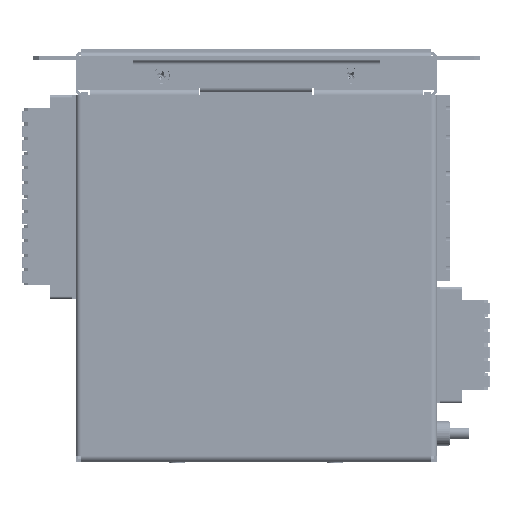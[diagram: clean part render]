
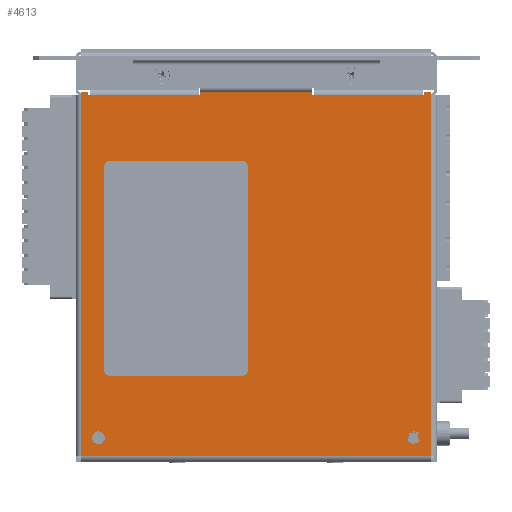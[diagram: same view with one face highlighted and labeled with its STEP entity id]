
A CAD part, left-side view. The second image highlights one B-rep face of the part: STEP entity #4613.
In plain terms, the highlighted planar face has unit normal (-1, 0, 0) as drawn and (0, 0, 1) by its records, which use the part's own axes.
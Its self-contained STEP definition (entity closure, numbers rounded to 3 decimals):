
#4613=ADVANCED_FACE('',(#188357,#188359,#188361),#188363,.T.);
#188357=FACE_BOUND('',#188358,.T.);
#188358=EDGE_LOOP('',(#334803,#334804,#334805,#334806,#334807,#334808,#334809,#334810,
#334811,#334812,#334813,#334814,#334815,#334816,#334817,#334818,#334819,#334820));
#188359=FACE_BOUND('',#188360,.T.);
#188360=EDGE_LOOP('',(#334821));
#188361=FACE_BOUND('',#188362,.T.);
#188362=EDGE_LOOP('',(#334822));
#188363=PLANE('',#188364);
#188364=AXIS2_PLACEMENT_3D('',#188365,#188366,#188367);
#188365=CARTESIAN_POINT('',(0.,0.,1.));
#188366=DIRECTION('',(0.,0.,1.));
#188367=DIRECTION('',(1.,0.,0.));
#334803=ORIENTED_EDGE('',*,*,#466838,.F.);
#334804=ORIENTED_EDGE('',*,*,#466839,.T.);
#334805=ORIENTED_EDGE('',*,*,#466840,.T.);
#334806=ORIENTED_EDGE('',*,*,#466841,.T.);
#334807=ORIENTED_EDGE('',*,*,#466842,.T.);
#334808=ORIENTED_EDGE('',*,*,#466843,.T.);
#334809=ORIENTED_EDGE('',*,*,#466844,.F.);
#334810=ORIENTED_EDGE('',*,*,#466845,.T.);
#334811=ORIENTED_EDGE('',*,*,#466846,.T.);
#334812=ORIENTED_EDGE('',*,*,#466847,.T.);
#334813=ORIENTED_EDGE('',*,*,#466848,.T.);
#334814=ORIENTED_EDGE('',*,*,#466636,.T.);
#334815=ORIENTED_EDGE('',*,*,#466849,.T.);
#334816=ORIENTED_EDGE('',*,*,#466850,.T.);
#334817=ORIENTED_EDGE('',*,*,#466851,.T.);
#334818=ORIENTED_EDGE('',*,*,#466852,.T.);
#334819=ORIENTED_EDGE('',*,*,#466853,.T.);
#334820=ORIENTED_EDGE('',*,*,#466854,.T.);
#334821=ORIENTED_EDGE('',*,*,#466855,.T.);
#334822=ORIENTED_EDGE('',*,*,#466856,.T.);
#466636=EDGE_CURVE('',#528218,#528220,#528222,.T.);
#466838=EDGE_CURVE('',#528524,#528525,#528526,.T.);
#466839=EDGE_CURVE('',#528524,#528527,#528528,.F.);
#466840=EDGE_CURVE('',#528527,#528529,#528530,.F.);
#466841=EDGE_CURVE('',#528529,#528531,#528532,.F.);
#466842=EDGE_CURVE('',#528531,#528533,#528534,.F.);
#466843=EDGE_CURVE('',#528533,#528535,#528536,.F.);
#466844=EDGE_CURVE('',#528537,#528535,#528538,.T.);
#466845=EDGE_CURVE('',#528537,#528539,#528540,.F.);
#466846=EDGE_CURVE('',#528539,#528541,#528542,.F.);
#466847=EDGE_CURVE('',#528541,#528543,#528544,.T.);
#466848=EDGE_CURVE('',#528543,#528218,#528545,.F.);
#466849=EDGE_CURVE('',#528220,#528546,#528547,.T.);
#466850=EDGE_CURVE('',#528546,#528548,#528549,.T.);
#466851=EDGE_CURVE('',#528548,#528550,#528551,.F.);
#466852=EDGE_CURVE('',#528550,#528552,#528553,.T.);
#466853=EDGE_CURVE('',#528552,#528554,#528555,.F.);
#466854=EDGE_CURVE('',#528554,#528525,#528556,.F.);
#466855=EDGE_CURVE('',#528557,#528557,#528558,.T.);
#466856=EDGE_CURVE('',#528559,#528559,#528560,.T.);
#528218=VERTEX_POINT('',#631509);
#528220=VERTEX_POINT('',#631514);
#528222=LINE('',#631519,#631520);
#528524=VERTEX_POINT('',#632229);
#528525=VERTEX_POINT('',#632230);
#528526=LINE('',#632231,#632232);
#528527=VERTEX_POINT('',#632234);
#528528=LINE('',#632235,#632236);
#528529=VERTEX_POINT('',#632238);
#528530=LINE('',#632239,#632240);
#528531=VERTEX_POINT('',#632242);
#528532=LINE('',#632243,#632244);
#528533=VERTEX_POINT('',#632246);
#528534=LINE('',#632247,#632248);
#528535=VERTEX_POINT('',#632250);
#528536=LINE('',#632251,#632252);
#528537=VERTEX_POINT('',#632254);
#528538=LINE('',#632255,#632256);
#528539=VERTEX_POINT('',#632258);
#528540=LINE('',#632259,#632260);
#528541=VERTEX_POINT('',#632262);
#528542=LINE('',#632263,#632264);
#528543=VERTEX_POINT('',#632266);
#528544=LINE('',#632267,#632268);
#528545=LINE('',#632270,#632271);
#528546=VERTEX_POINT('',#632273);
#528547=LINE('',#632274,#632275);
#528548=VERTEX_POINT('',#632277);
#528549=LINE('',#632278,#632279);
#528550=VERTEX_POINT('',#632281);
#528551=LINE('',#632282,#632283);
#528552=VERTEX_POINT('',#632285);
#528553=LINE('',#632286,#632287);
#528554=VERTEX_POINT('',#632289);
#528555=LINE('',#632290,#632291);
#528556=LINE('',#632293,#632294);
#528557=VERTEX_POINT('',#632296);
#528558=CIRCLE('',#632297,1.5);
#528559=VERTEX_POINT('',#632301);
#528560=CIRCLE('',#632302,1.5);
#631509=CARTESIAN_POINT('',(-62.5,-61.,1.));
#631514=CARTESIAN_POINT('',(63.5,-61.,1.));
#631519=CARTESIAN_POINT('',(-62.5,-61.,1.));
#631520=VECTOR('',#631521,1.);
#631521=DIRECTION('',(1.,0.,0.));
#632229=CARTESIAN_POINT('',(-62.5,20.,1.));
#632230=CARTESIAN_POINT('',(-62.5,58.,1.));
#632231=CARTESIAN_POINT('',(-62.5,20.,1.));
#632232=VECTOR('',#632233,1.);
#632233=DIRECTION('',(0.,1.,0.));
#632234=CARTESIAN_POINT('',(-62.5,19.5,1.));
#632235=CARTESIAN_POINT('',(-62.5,19.5,1.));
#632236=VECTOR('',#632237,1.);
#632237=DIRECTION('',(0.,1.,0.));
#632238=CARTESIAN_POINT('',(-63.5,19.5,1.));
#632239=CARTESIAN_POINT('',(-63.5,19.5,1.));
#632240=VECTOR('',#632241,1.);
#632241=DIRECTION('',(1.,0.,0.));
#632242=CARTESIAN_POINT('',(-63.5,-19.5,1.));
#632243=CARTESIAN_POINT('',(-63.5,-19.5,1.));
#632244=VECTOR('',#632245,1.);
#632245=DIRECTION('',(0.,1.,0.));
#632246=CARTESIAN_POINT('',(-62.5,-19.5,1.));
#632247=CARTESIAN_POINT('',(-62.5,-19.5,1.));
#632248=VECTOR('',#632249,1.);
#632249=DIRECTION('',(-1.,0.,0.));
#632250=CARTESIAN_POINT('',(-62.5,-20.,1.));
#632251=CARTESIAN_POINT('',(-62.5,-20.,1.));
#632252=VECTOR('',#632253,1.);
#632253=DIRECTION('',(0.,1.,0.));
#632254=CARTESIAN_POINT('',(-62.5,-58.,1.));
#632255=CARTESIAN_POINT('',(-62.5,-58.,1.));
#632256=VECTOR('',#632257,1.);
#632257=DIRECTION('',(0.,1.,0.));
#632258=CARTESIAN_POINT('',(-62.5,-58.5,1.));
#632259=CARTESIAN_POINT('',(-62.5,-58.5,1.));
#632260=VECTOR('',#632261,1.);
#632261=DIRECTION('',(0.,1.,0.));
#632262=CARTESIAN_POINT('',(-63.5,-58.5,1.));
#632263=CARTESIAN_POINT('',(-63.5,-58.5,1.));
#632264=VECTOR('',#632265,1.);
#632265=DIRECTION('',(1.,0.,0.));
#632266=CARTESIAN_POINT('',(-63.5,-61.,1.));
#632267=CARTESIAN_POINT('',(-63.5,-58.5,1.));
#632268=VECTOR('',#632269,1.);
#632269=DIRECTION('',(0.,-1.,0.));
#632270=CARTESIAN_POINT('',(-62.5,-61.,1.));
#632271=VECTOR('',#632272,1.);
#632272=DIRECTION('',(-1.,0.,0.));
#632273=CARTESIAN_POINT('',(63.5,61.,1.));
#632274=CARTESIAN_POINT('',(63.5,-61.,1.));
#632275=VECTOR('',#632276,1.);
#632276=DIRECTION('',(0.,1.,0.));
#632277=CARTESIAN_POINT('',(-62.5,61.,1.));
#632278=CARTESIAN_POINT('',(63.5,61.,1.));
#632279=VECTOR('',#632280,1.);
#632280=DIRECTION('',(-1.,0.,0.));
#632281=CARTESIAN_POINT('',(-63.5,61.,1.));
#632282=CARTESIAN_POINT('',(-63.5,61.,1.));
#632283=VECTOR('',#632284,1.);
#632284=DIRECTION('',(1.,0.,0.));
#632285=CARTESIAN_POINT('',(-63.5,58.5,1.));
#632286=CARTESIAN_POINT('',(-63.5,61.,1.));
#632287=VECTOR('',#632288,1.);
#632288=DIRECTION('',(0.,-1.,0.));
#632289=CARTESIAN_POINT('',(-62.5,58.5,1.));
#632290=CARTESIAN_POINT('',(-62.5,58.5,1.));
#632291=VECTOR('',#632292,1.);
#632292=DIRECTION('',(-1.,0.,0.));
#632293=CARTESIAN_POINT('',(-62.5,58.,1.));
#632294=VECTOR('',#632295,1.);
#632295=DIRECTION('',(0.,1.,0.));
#632296=CARTESIAN_POINT('',(58.5,-55.,1.));
#632297=AXIS2_PLACEMENT_3D('',#632298,#632299,#632300);
#632298=CARTESIAN_POINT('',(57.,-55.,1.));
#632299=DIRECTION('',(0.,0.,-1.));
#632300=DIRECTION('',(1.,0.,0.));
#632301=CARTESIAN_POINT('',(58.5,55.,1.));
#632302=AXIS2_PLACEMENT_3D('',#632303,#632304,#632305);
#632303=CARTESIAN_POINT('',(57.,55.,1.));
#632304=DIRECTION('',(0.,0.,-1.));
#632305=DIRECTION('',(1.,0.,0.));
